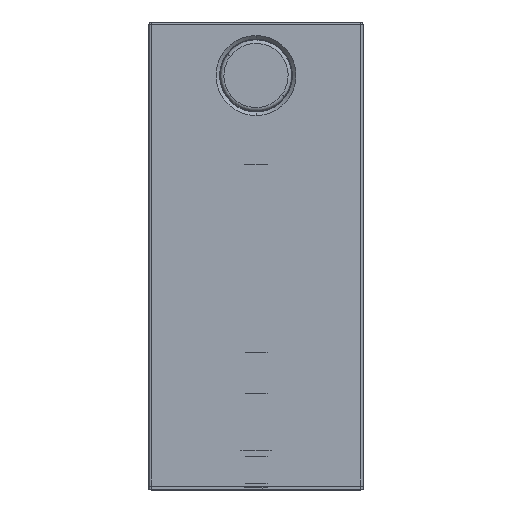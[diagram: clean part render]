
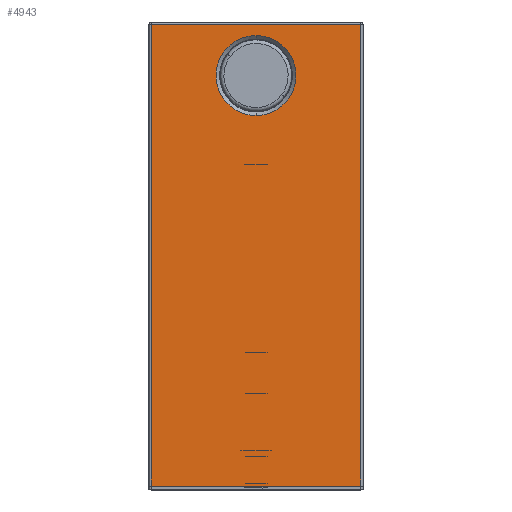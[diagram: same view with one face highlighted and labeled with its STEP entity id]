
A CAD part, top view. The second image highlights one B-rep face of the part: STEP entity #4943.
In plain terms, the highlighted planar face has unit normal (0, 0, 1) as drawn and (0, 1, 0) by its records, which use the part's own axes.
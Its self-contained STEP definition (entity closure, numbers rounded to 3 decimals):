
#101 = EDGE_CURVE ( 'NONE', #2589, #497, #2445, .T. ) ;
#116 = CIRCLE ( 'NONE', #2715, 5.6 ) ;
#497 = VERTEX_POINT ( 'NONE', #4308 ) ;
#542 = EDGE_CURVE ( 'NONE', #1226, #2143, #4281, .T. ) ;
#584 = CARTESIAN_POINT ( 'NONE',  ( -14.7, 6., 23. ) ) ;
#695 = VECTOR ( 'NONE', #4543, 1000. ) ;
#815 = AXIS2_PLACEMENT_3D ( 'NONE', #2533, #4657, #3300 ) ;
#871 = PLANE ( 'NONE',  #815 ) ;
#932 = DIRECTION ( 'NONE',  ( 1., 0., 0. ) ) ;
#1070 = DIRECTION ( 'NONE',  ( 0., -1., 0. ) ) ;
#1186 = ORIENTED_EDGE ( 'NONE', *, *, #542, .F. ) ;
#1226 = VERTEX_POINT ( 'NONE', #4064 ) ;
#1328 = DIRECTION ( 'NONE',  ( 0., -1., 0. ) ) ;
#1404 = CARTESIAN_POINT ( 'NONE',  ( 15., 6., 23. ) ) ;
#1410 = CARTESIAN_POINT ( 'NONE',  ( 0., 6., -34.5 ) ) ;
#1603 = CARTESIAN_POINT ( 'NONE',  ( 0., 6., -28.9 ) ) ;
#1745 = CARTESIAN_POINT ( 'NONE',  ( 0., 6., -40.1 ) ) ;
#1840 = VECTOR ( 'NONE', #2701, 1000. ) ;
#1894 = EDGE_CURVE ( 'NONE', #2150, #3905, #2866, .T. ) ;
#2049 = EDGE_CURVE ( 'NONE', #497, #2143, #4769, .T. ) ;
#2143 = VERTEX_POINT ( 'NONE', #584 ) ;
#2150 = VERTEX_POINT ( 'NONE', #1745 ) ;
#2238 = ORIENTED_EDGE ( 'NONE', *, *, #1894, .T. ) ;
#2314 = ORIENTED_EDGE ( 'NONE', *, *, #2049, .T. ) ;
#2372 = CARTESIAN_POINT ( 'NONE',  ( 14.7, 6., 23. ) ) ;
#2416 = ORIENTED_EDGE ( 'NONE', *, *, #4354, .T. ) ;
#2445 = LINE ( 'NONE', #2888, #695 ) ;
#2513 = AXIS2_PLACEMENT_3D ( 'NONE', #4282, #1328, #932 ) ;
#2533 = CARTESIAN_POINT ( 'NONE',  ( 15., 6., 23. ) ) ;
#2589 = VERTEX_POINT ( 'NONE', #3865 ) ;
#2701 = DIRECTION ( 'NONE',  ( 0., 0., -1. ) ) ;
#2715 = AXIS2_PLACEMENT_3D ( 'NONE', #1410, #1070, #3980 ) ;
#2775 = EDGE_LOOP ( 'NONE', ( #2416, #2238 ) ) ;
#2855 = EDGE_LOOP ( 'NONE', ( #3518, #5190, #2314, #1186 ) ) ;
#2862 = EDGE_CURVE ( 'NONE', #1226, #2589, #4010, .T. ) ;
#2866 = CIRCLE ( 'NONE', #2513, 5.6 ) ;
#2888 = CARTESIAN_POINT ( 'NONE',  ( 15., 6., -41.7 ) ) ;
#3060 = DIRECTION ( 'NONE',  ( -1., 0., 0. ) ) ;
#3300 = DIRECTION ( 'NONE',  ( 1., 0., 0. ) ) ;
#3518 = ORIENTED_EDGE ( 'NONE', *, *, #2862, .T. ) ;
#3865 = CARTESIAN_POINT ( 'NONE',  ( 14.7, 6., -41.7 ) ) ;
#3905 = VERTEX_POINT ( 'NONE', #1603 ) ;
#3980 = DIRECTION ( 'NONE',  ( 1., 0., 0. ) ) ;
#4010 = LINE ( 'NONE', #2372, #1840 ) ;
#4064 = CARTESIAN_POINT ( 'NONE',  ( 14.7, 6., 23. ) ) ;
#4281 = LINE ( 'NONE', #1404, #4417 ) ;
#4282 = CARTESIAN_POINT ( 'NONE',  ( 0., 6., -34.5 ) ) ;
#4308 = CARTESIAN_POINT ( 'NONE',  ( -14.7, 6., -41.7 ) ) ;
#4331 = CARTESIAN_POINT ( 'NONE',  ( -14.7, 6., 23. ) ) ;
#4354 = EDGE_CURVE ( 'NONE', #3905, #2150, #116, .T. ) ;
#4417 = VECTOR ( 'NONE', #3060, 1000. ) ;
#4543 = DIRECTION ( 'NONE',  ( -1., 0., 0. ) ) ;
#4564 = FACE_BOUND ( 'NONE', #2775, .T. ) ;
#4592 = FACE_OUTER_BOUND ( 'NONE', #2855, .T. ) ;
#4657 = DIRECTION ( 'NONE',  ( 0., -1., 0. ) ) ;
#4769 = LINE ( 'NONE', #4331, #5112 ) ;
#4943 = ADVANCED_FACE ( 'NONE', ( #4564, #4592 ), #871, .F. ) ;
#5112 = VECTOR ( 'NONE', #5184, 1000. ) ;
#5184 = DIRECTION ( 'NONE',  ( 0., 0., 1. ) ) ;
#5190 = ORIENTED_EDGE ( 'NONE', *, *, #101, .T. ) ;
